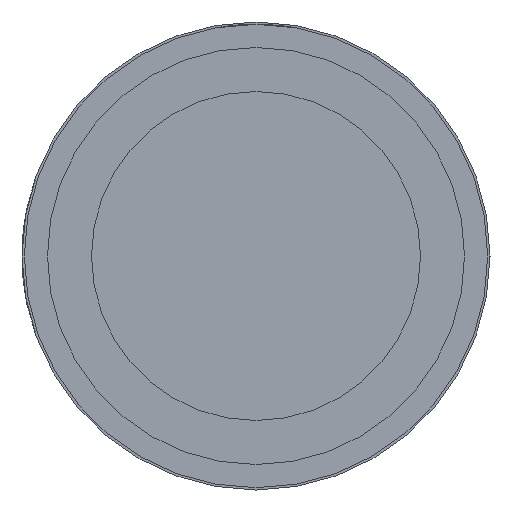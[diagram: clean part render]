
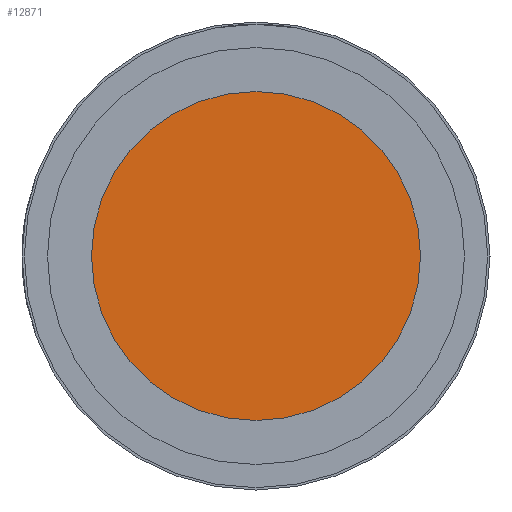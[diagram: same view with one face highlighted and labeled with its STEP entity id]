
A CAD part, left-side view. The second image highlights one B-rep face of the part: STEP entity #12871.
In plain terms, the highlighted planar face has unit normal (-1, 0, 0).
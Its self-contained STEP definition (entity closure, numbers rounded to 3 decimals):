
#527 = EDGE_CURVE ( 'NONE', #11260, #8265, #10985, .T. ) ;
#607 = CARTESIAN_POINT ( 'NONE',  ( -343., 0., 0. ) ) ;
#702 = DIRECTION ( 'NONE',  ( 0., 0., -1. ) ) ;
#840 = DIRECTION ( 'NONE',  ( 1., 0., 0. ) ) ;
#3638 = CARTESIAN_POINT ( 'NONE',  ( -343., 0., 0. ) ) ;
#4959 = ORIENTED_EDGE ( 'NONE', *, *, #10135, .F. ) ;
#5105 = DIRECTION ( 'NONE',  ( 0., 0., -1. ) ) ;
#5497 = PLANE ( 'NONE',  #19659 ) ;
#5654 = CARTESIAN_POINT ( 'NONE',  ( -343., 0., 35.5 ) ) ;
#6948 = DIRECTION ( 'NONE',  ( 1., 0., 0. ) ) ;
#7178 = DIRECTION ( 'NONE',  ( 0., 0., -1. ) ) ;
#7730 = EDGE_LOOP ( 'NONE', ( #4959, #19345 ) ) ;
#8265 = VERTEX_POINT ( 'NONE', #19412 ) ;
#10135 = EDGE_CURVE ( 'NONE', #8265, #11260, #19569, .T. ) ;
#10985 = CIRCLE ( 'NONE', #16941, 35.5 ) ;
#11260 = VERTEX_POINT ( 'NONE', #5654 ) ;
#12871 = ADVANCED_FACE ( 'NONE', ( #18217 ), #5497, .F. ) ;
#12969 = AXIS2_PLACEMENT_3D ( 'NONE', #15025, #840, #7178 ) ;
#13275 = DIRECTION ( 'NONE',  ( 1., 0., 0. ) ) ;
#15025 = CARTESIAN_POINT ( 'NONE',  ( -343., 0., 0. ) ) ;
#16941 = AXIS2_PLACEMENT_3D ( 'NONE', #3638, #13275, #5105 ) ;
#18217 = FACE_OUTER_BOUND ( 'NONE', #7730, .T. ) ;
#19345 = ORIENTED_EDGE ( 'NONE', *, *, #527, .F. ) ;
#19412 = CARTESIAN_POINT ( 'NONE',  ( -343., 0., -35.5 ) ) ;
#19569 = CIRCLE ( 'NONE', #12969, 35.5 ) ;
#19659 = AXIS2_PLACEMENT_3D ( 'NONE', #607, #6948, #702 ) ;
